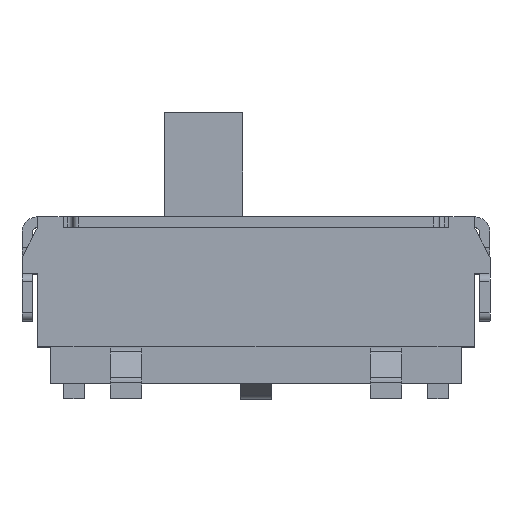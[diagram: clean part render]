
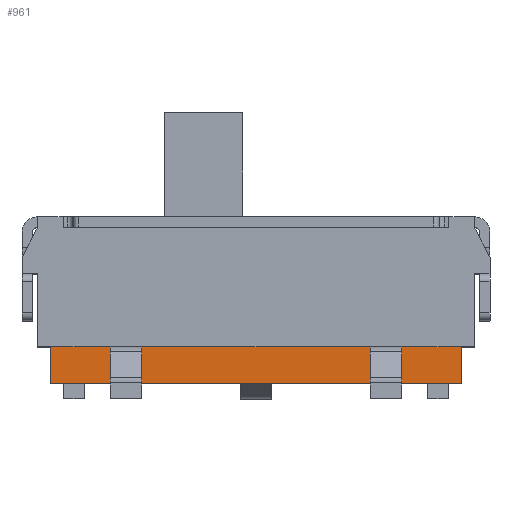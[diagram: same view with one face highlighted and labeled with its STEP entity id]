
A CAD part, top view. The second image highlights one B-rep face of the part: STEP entity #961.
In plain terms, the highlighted planar face has unit normal (0, 0, 1) as drawn and (0, 1, 0) by its records, which use the part's own axes.
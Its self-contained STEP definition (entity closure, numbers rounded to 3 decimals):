
#4 = EDGE_CURVE ( 'NONE', #8354, #5950, #5883, .T. ) ;
#20 = VERTEX_POINT ( 'NONE', #5839 ) ;
#84 = VECTOR ( 'NONE', #1297, 1000. ) ;
#100 = DIRECTION ( 'NONE',  ( -1., 0., 0. ) ) ;
#137 = LINE ( 'NONE', #5531, #4481 ) ;
#160 = VERTEX_POINT ( 'NONE', #4974 ) ;
#333 = CARTESIAN_POINT ( 'NONE',  ( -2.8, 1.45, -1.15 ) ) ;
#370 = CARTESIAN_POINT ( 'NONE',  ( 3.7, 1.45, -1.15 ) ) ;
#486 = LINE ( 'NONE', #5723, #3633 ) ;
#522 = VERTEX_POINT ( 'NONE', #370 ) ;
#579 = EDGE_CURVE ( 'NONE', #4107, #7954, #3585, .T. ) ;
#608 = EDGE_CURVE ( 'NONE', #4802, #522, #3677, .T. ) ;
#696 = DIRECTION ( 'NONE',  ( -1., 0., 0. ) ) ;
#749 = VECTOR ( 'NONE', #5525, 1000. ) ;
#830 = DIRECTION ( 'NONE',  ( 0., 0., 1. ) ) ;
#845 = CARTESIAN_POINT ( 'NONE',  ( -2.8, 1.45, -1.45 ) ) ;
#961 = ADVANCED_FACE ( 'NONE', ( #7029 ), #7549, .T. ) ;
#1013 = CARTESIAN_POINT ( 'NONE',  ( -3.95, 1.45, -1.85 ) ) ;
#1179 = LINE ( 'NONE', #3282, #5262 ) ;
#1196 = DIRECTION ( 'NONE',  ( 0., 0., 1. ) ) ;
#1297 = DIRECTION ( 'NONE',  ( -1., 0., 0. ) ) ;
#1468 = CARTESIAN_POINT ( 'NONE',  ( -2.2, 1.45, -1.15 ) ) ;
#1497 = CARTESIAN_POINT ( 'NONE',  ( -3.95, 1.45, -1.85 ) ) ;
#1524 = VECTOR ( 'NONE', #830, 1000. ) ;
#1587 = EDGE_CURVE ( 'NONE', #20, #6676, #2441, .T. ) ;
#1673 = DIRECTION ( 'NONE',  ( 0., 0., 1. ) ) ;
#1730 = CARTESIAN_POINT ( 'NONE',  ( -2.8, 1.45, -1.45 ) ) ;
#1833 = DIRECTION ( 'NONE',  ( -1., 0., 0. ) ) ;
#1843 = DIRECTION ( 'NONE',  ( -1., 0., 0. ) ) ;
#1977 = CARTESIAN_POINT ( 'NONE',  ( 3.95, 1.45, -1.85 ) ) ;
#2004 = LINE ( 'NONE', #5418, #5636 ) ;
#2051 = EDGE_CURVE ( 'NONE', #8216, #4802, #4711, .T. ) ;
#2300 = CARTESIAN_POINT ( 'NONE',  ( -2.2, 1.45, -1.45 ) ) ;
#2403 = VECTOR ( 'NONE', #1673, 1000. ) ;
#2441 = LINE ( 'NONE', #4905, #6535 ) ;
#2481 = DIRECTION ( 'NONE',  ( 1., 0., 0. ) ) ;
#2490 = VECTOR ( 'NONE', #3226, 1000. ) ;
#2536 = EDGE_CURVE ( 'NONE', #6343, #6454, #4330, .T. ) ;
#2619 = ORIENTED_EDGE ( 'NONE', *, *, #2051, .F. ) ;
#2701 = EDGE_LOOP ( 'NONE', ( #7389, #8501, #8400, #7742, #4748, #7254, #2619, #7945, #3111, #5107, #4820, #8362, #3521, #7626 ) ) ;
#2704 = CARTESIAN_POINT ( 'NONE',  ( -3.7, 1.45, -1.15 ) ) ;
#2778 = CARTESIAN_POINT ( 'NONE',  ( -2.8, 1.45, -1.45 ) ) ;
#2871 = EDGE_CURVE ( 'NONE', #6343, #8354, #7482, .T. ) ;
#2903 = DIRECTION ( 'NONE',  ( -1., 0., 0. ) ) ;
#2966 = LINE ( 'NONE', #3616, #1524 ) ;
#3111 = ORIENTED_EDGE ( 'NONE', *, *, #579, .T. ) ;
#3225 = CARTESIAN_POINT ( 'NONE',  ( -2.8, 1.45, -1.15 ) ) ;
#3226 = DIRECTION ( 'NONE',  ( 0., 0., 1. ) ) ;
#3248 = VECTOR ( 'NONE', #100, 1000. ) ;
#3282 = CARTESIAN_POINT ( 'NONE',  ( 2.2, 1.45, -1.15 ) ) ;
#3521 = ORIENTED_EDGE ( 'NONE', *, *, #2871, .T. ) ;
#3585 = LINE ( 'NONE', #1013, #2403 ) ;
#3616 = CARTESIAN_POINT ( 'NONE',  ( 2.8, 1.45, -1.45 ) ) ;
#3633 = VECTOR ( 'NONE', #1833, 1000. ) ;
#3677 = LINE ( 'NONE', #5007, #7610 ) ;
#3709 = EDGE_CURVE ( 'NONE', #6454, #4826, #6637, .T. ) ;
#3721 = EDGE_CURVE ( 'NONE', #522, #8152, #137, .T. ) ;
#4046 = CARTESIAN_POINT ( 'NONE',  ( 3.95, 1.45, -1.85 ) ) ;
#4107 = VERTEX_POINT ( 'NONE', #1497 ) ;
#4330 = LINE ( 'NONE', #1730, #6737 ) ;
#4481 = VECTOR ( 'NONE', #4856, 1000. ) ;
#4620 = DIRECTION ( 'NONE',  ( 0., 0., 1. ) ) ;
#4647 = LINE ( 'NONE', #7239, #84 ) ;
#4711 = LINE ( 'NONE', #1977, #5597 ) ;
#4748 = ORIENTED_EDGE ( 'NONE', *, *, #3721, .F. ) ;
#4789 = EDGE_CURVE ( 'NONE', #8216, #4107, #4647, .T. ) ;
#4802 = VERTEX_POINT ( 'NONE', #5965 ) ;
#4820 = ORIENTED_EDGE ( 'NONE', *, *, #3709, .F. ) ;
#4826 = VERTEX_POINT ( 'NONE', #2704 ) ;
#4856 = DIRECTION ( 'NONE',  ( -1., 0., 0. ) ) ;
#4905 = CARTESIAN_POINT ( 'NONE',  ( 2.2, 1.45, -1.45 ) ) ;
#4913 = CARTESIAN_POINT ( 'NONE',  ( -3.95, 1.45, -1.15 ) ) ;
#4949 = DIRECTION ( 'NONE',  ( 0., 0., 1. ) ) ;
#4974 = CARTESIAN_POINT ( 'NONE',  ( 2.8, 1.45, -1.45 ) ) ;
#4992 = DIRECTION ( 'NONE',  ( 0., 1., 0. ) ) ;
#5007 = CARTESIAN_POINT ( 'NONE',  ( 3.95, 1.45, -1.15 ) ) ;
#5107 = ORIENTED_EDGE ( 'NONE', *, *, #5761, .F. ) ;
#5185 = AXIS2_PLACEMENT_3D ( 'NONE', #7720, #4992, #2481 ) ;
#5262 = VECTOR ( 'NONE', #1843, 1000. ) ;
#5418 = CARTESIAN_POINT ( 'NONE',  ( 2.8, 1.45, -1.45 ) ) ;
#5525 = DIRECTION ( 'NONE',  ( 1., 0., 0. ) ) ;
#5531 = CARTESIAN_POINT ( 'NONE',  ( 3.7, 1.45, -1.15 ) ) ;
#5597 = VECTOR ( 'NONE', #4620, 1000. ) ;
#5636 = VECTOR ( 'NONE', #696, 1000. ) ;
#5723 = CARTESIAN_POINT ( 'NONE',  ( -3.7, 1.45, -1.15 ) ) ;
#5761 = EDGE_CURVE ( 'NONE', #4826, #7954, #486, .T. ) ;
#5839 = CARTESIAN_POINT ( 'NONE',  ( 2.2, 1.45, -1.45 ) ) ;
#5883 = LINE ( 'NONE', #8477, #2490 ) ;
#5950 = VERTEX_POINT ( 'NONE', #1468 ) ;
#5965 = CARTESIAN_POINT ( 'NONE',  ( 3.95, 1.45, -1.15 ) ) ;
#6343 = VERTEX_POINT ( 'NONE', #2778 ) ;
#6454 = VERTEX_POINT ( 'NONE', #333 ) ;
#6535 = VECTOR ( 'NONE', #4949, 1000. ) ;
#6637 = LINE ( 'NONE', #3225, #3248 ) ;
#6676 = VERTEX_POINT ( 'NONE', #7220 ) ;
#6737 = VECTOR ( 'NONE', #1196, 1000. ) ;
#6891 = EDGE_CURVE ( 'NONE', #160, #20, #2004, .T. ) ;
#7029 = FACE_OUTER_BOUND ( 'NONE', #2701, .T. ) ;
#7220 = CARTESIAN_POINT ( 'NONE',  ( 2.2, 1.45, -1.15 ) ) ;
#7239 = CARTESIAN_POINT ( 'NONE',  ( 3.95, 1.45, -1.85 ) ) ;
#7254 = ORIENTED_EDGE ( 'NONE', *, *, #608, .F. ) ;
#7389 = ORIENTED_EDGE ( 'NONE', *, *, #7874, .F. ) ;
#7482 = LINE ( 'NONE', #845, #749 ) ;
#7549 = PLANE ( 'NONE',  #5185 ) ;
#7610 = VECTOR ( 'NONE', #2903, 1000. ) ;
#7626 = ORIENTED_EDGE ( 'NONE', *, *, #4, .T. ) ;
#7720 = CARTESIAN_POINT ( 'NONE',  ( -3.95, 1.45, -1.15 ) ) ;
#7742 = ORIENTED_EDGE ( 'NONE', *, *, #7915, .T. ) ;
#7768 = CARTESIAN_POINT ( 'NONE',  ( 2.8, 1.45, -1.15 ) ) ;
#7874 = EDGE_CURVE ( 'NONE', #6676, #5950, #1179, .T. ) ;
#7915 = EDGE_CURVE ( 'NONE', #160, #8152, #2966, .T. ) ;
#7945 = ORIENTED_EDGE ( 'NONE', *, *, #4789, .T. ) ;
#7954 = VERTEX_POINT ( 'NONE', #4913 ) ;
#8152 = VERTEX_POINT ( 'NONE', #7768 ) ;
#8216 = VERTEX_POINT ( 'NONE', #4046 ) ;
#8354 = VERTEX_POINT ( 'NONE', #2300 ) ;
#8362 = ORIENTED_EDGE ( 'NONE', *, *, #2536, .F. ) ;
#8400 = ORIENTED_EDGE ( 'NONE', *, *, #6891, .F. ) ;
#8477 = CARTESIAN_POINT ( 'NONE',  ( -2.2, 1.45, -1.45 ) ) ;
#8501 = ORIENTED_EDGE ( 'NONE', *, *, #1587, .F. ) ;
